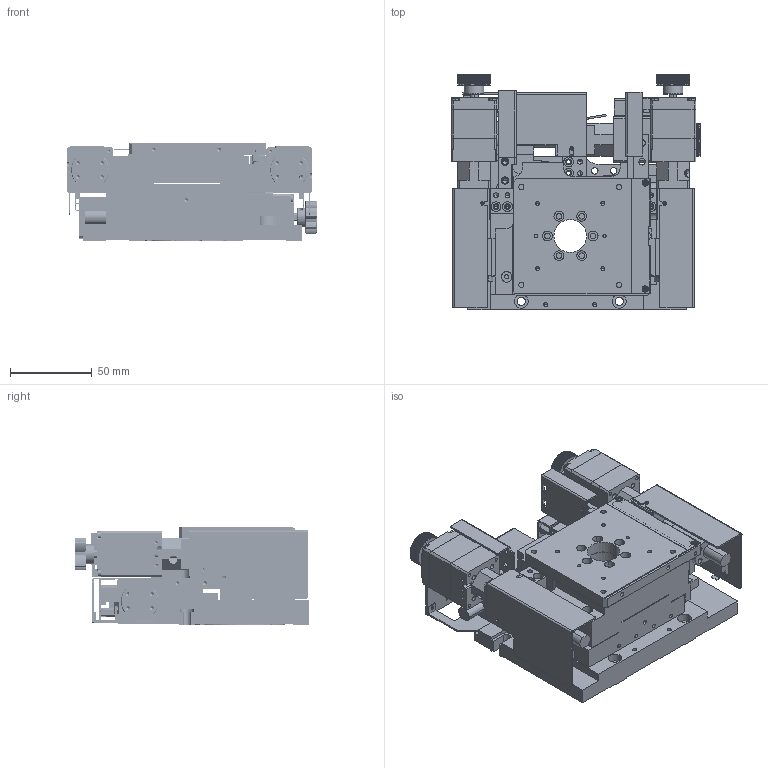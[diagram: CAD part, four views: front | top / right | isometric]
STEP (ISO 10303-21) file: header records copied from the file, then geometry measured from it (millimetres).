
FILE_DESCRIPTION (( 'STEP AP214' ), '1' );
FILE_NAME ('TXYRA70-L1-M28.STEP', '2025-01-03T07:59:21', ( '' ), ( '' ), 'SwSTEP 2.0', 'SolidWorks 2020', '' );
FILE_SCHEMA (( 'AUTOMOTIVE_DESIGN' ));
Length unit declared in the file: millimetre
Products named in the file (1): TXYRA70-L1-M28
Bounding box: 153 x 144 x 60 mm (x, y, z)
Volume: 585928.4 mm3; surface area: 202121.1 mm2
Topology: 1 solids, 42 shells, 4056 faces, 10921 edges, 6975 vertices
Faces by surface type: plane 1996, cylinder 1630, cone 418, torus 12
Entity records: 175513 total; most frequent: CARTESIAN_POINT 29669, ORIENTED_EDGE 21314, DIRECTION 20856, EDGE_CURVE 10657, AXIS2_PLACEMENT_3D 7525, VERTEX_POINT 6975, VECTOR 5806, LINE 5806
